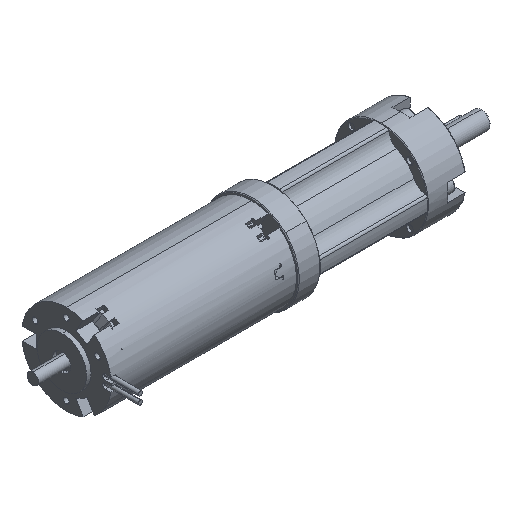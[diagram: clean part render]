
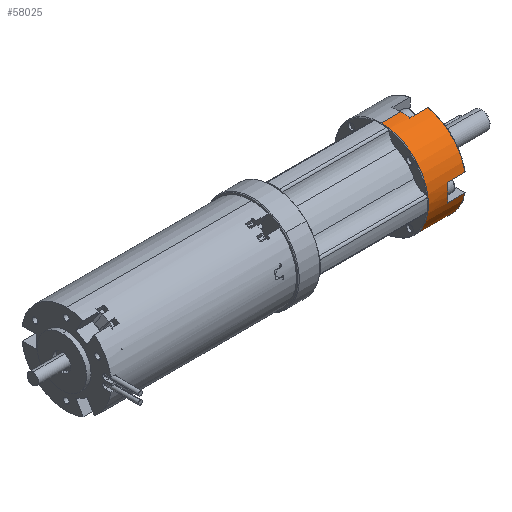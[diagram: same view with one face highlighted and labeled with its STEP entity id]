
A CAD part, isometric view. The second image highlights one B-rep face of the part: STEP entity #58025.
In plain terms, the highlighted cylindrical face has radius 21 mm (diameter 42 mm), a partial arc.
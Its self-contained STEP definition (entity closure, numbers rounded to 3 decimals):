
#43 = DIRECTION ( 'NONE',  ( 1., 0., 0. ) ) ;
#148 = EDGE_CURVE ( 'NONE', #23299, #51771, #22941, .T. ) ;
#1339 = EDGE_CURVE ( 'NONE', #60992, #38712, #49141, .T. ) ;
#1521 = CARTESIAN_POINT ( 'NONE',  ( 16.9, -4., 20.616 ) ) ;
#2095 = VECTOR ( 'NONE', #15614, 1000. ) ;
#3697 = DIRECTION ( 'NONE',  ( -1., 0., 0. ) ) ;
#4042 = CARTESIAN_POINT ( 'NONE',  ( 16.9, -20.616, -4. ) ) ;
#4118 = LINE ( 'NONE', #38940, #52838 ) ;
#4712 = AXIS2_PLACEMENT_3D ( 'NONE', #20359, #53383, #25099 ) ;
#5661 = EDGE_LOOP ( 'NONE', ( #40876, #60048, #26651, #35149, #33026, #30747, #54643, #25049, #15359, #45466, #37441, #35985 ) ) ;
#5839 = DIRECTION ( 'NONE',  ( 1., 0., 0. ) ) ;
#5995 = CARTESIAN_POINT ( 'NONE',  ( -3.37, -20.616, -4. ) ) ;
#6424 = LINE ( 'NONE', #52890, #41069 ) ;
#7701 = EDGE_CURVE ( 'NONE', #11667, #12142, #47411, .T. ) ;
#7794 = CARTESIAN_POINT ( 'NONE',  ( 9., 0., 0. ) ) ;
#7806 = DIRECTION ( 'NONE',  ( 1., 0., 0. ) ) ;
#7917 = DIRECTION ( 'NONE',  ( 1., 0., 0. ) ) ;
#9148 = DIRECTION ( 'NONE',  ( -1., 0., 0. ) ) ;
#9776 = VECTOR ( 'NONE', #7917, 1000. ) ;
#10589 = DIRECTION ( 'NONE',  ( 0., 0., -1. ) ) ;
#10762 = DIRECTION ( 'NONE',  ( -1., 0., 0. ) ) ;
#10824 = CARTESIAN_POINT ( 'NONE',  ( 16.9, -4., -20.616 ) ) ;
#11667 = VERTEX_POINT ( 'NONE', #39723 ) ;
#12142 = VERTEX_POINT ( 'NONE', #10824 ) ;
#12542 = DIRECTION ( 'NONE',  ( 0., 0., -1. ) ) ;
#13646 = CARTESIAN_POINT ( 'NONE',  ( 9., 0., -21. ) ) ;
#14704 = CARTESIAN_POINT ( 'NONE',  ( -3.37, 0., 0. ) ) ;
#15324 = CARTESIAN_POINT ( 'NONE',  ( 9., -20.616, -4. ) ) ;
#15359 = ORIENTED_EDGE ( 'NONE', *, *, #58092, .T. ) ;
#15535 = DIRECTION ( 'NONE',  ( 0., 0., -1. ) ) ;
#15614 = DIRECTION ( 'NONE',  ( -1., 0., 0. ) ) ;
#16657 = VERTEX_POINT ( 'NONE', #53145 ) ;
#17190 = CARTESIAN_POINT ( 'NONE',  ( -3.37, -4., -20.616 ) ) ;
#17995 = CARTESIAN_POINT ( 'NONE',  ( 16.9, 0., 0. ) ) ;
#18957 = CYLINDRICAL_SURFACE ( 'NONE', #35857, 21. ) ;
#19798 = CARTESIAN_POINT ( 'NONE',  ( 0.3, 0., 0. ) ) ;
#20162 = DIRECTION ( 'NONE',  ( 1., 0., 0. ) ) ;
#20359 = CARTESIAN_POINT ( 'NONE',  ( 9., 0., 0. ) ) ;
#20645 = VERTEX_POINT ( 'NONE', #29319 ) ;
#20682 = CARTESIAN_POINT ( 'NONE',  ( 9., -20.616, 4. ) ) ;
#20713 = VERTEX_POINT ( 'NONE', #20682 ) ;
#20803 = VECTOR ( 'NONE', #10762, 1000. ) ;
#21262 = EDGE_CURVE ( 'NONE', #57548, #20713, #54315, .T. ) ;
#22772 = DIRECTION ( 'NONE',  ( 0., 0., -1. ) ) ;
#22941 = CIRCLE ( 'NONE', #58885, 21. ) ;
#23299 = VERTEX_POINT ( 'NONE', #45488 ) ;
#23664 = VECTOR ( 'NONE', #7806, 1000. ) ;
#25049 = ORIENTED_EDGE ( 'NONE', *, *, #21262, .T. ) ;
#25099 = DIRECTION ( 'NONE',  ( 0., 0., -1. ) ) ;
#25248 = EDGE_CURVE ( 'NONE', #38712, #26696, #59884, .T. ) ;
#26651 = ORIENTED_EDGE ( 'NONE', *, *, #25248, .T. ) ;
#26696 = VERTEX_POINT ( 'NONE', #13646 ) ;
#28914 = DIRECTION ( 'NONE',  ( 1., 0., 0. ) ) ;
#29105 = CIRCLE ( 'NONE', #35176, 21. ) ;
#29319 = CARTESIAN_POINT ( 'NONE',  ( 9., 0., 21. ) ) ;
#30747 = ORIENTED_EDGE ( 'NONE', *, *, #46556, .T. ) ;
#31684 = CIRCLE ( 'NONE', #50743, 21. ) ;
#31941 = CARTESIAN_POINT ( 'NONE',  ( 9., 0., 0. ) ) ;
#32178 = EDGE_CURVE ( 'NONE', #50999, #57548, #58487, .T. ) ;
#33026 = ORIENTED_EDGE ( 'NONE', *, *, #7701, .T. ) ;
#34953 = EDGE_CURVE ( 'NONE', #60992, #20645, #4118, .T. ) ;
#35149 = ORIENTED_EDGE ( 'NONE', *, *, #56808, .T. ) ;
#35176 = AXIS2_PLACEMENT_3D ( 'NONE', #17995, #51039, #22772 ) ;
#35857 = AXIS2_PLACEMENT_3D ( 'NONE', #14704, #28914, #57283 ) ;
#35985 = ORIENTED_EDGE ( 'NONE', *, *, #46258, .T. ) ;
#36690 = DIRECTION ( 'NONE',  ( 0., 0., -1. ) ) ;
#37441 = ORIENTED_EDGE ( 'NONE', *, *, #50107, .T. ) ;
#38220 = LINE ( 'NONE', #43893, #2095 ) ;
#38712 = VERTEX_POINT ( 'NONE', #57292 ) ;
#38940 = CARTESIAN_POINT ( 'NONE',  ( -3.37, 0., 21. ) ) ;
#39723 = CARTESIAN_POINT ( 'NONE',  ( 9., -4., -20.616 ) ) ;
#40744 = DIRECTION ( 'NONE',  ( -1., 0., 0. ) ) ;
#40876 = ORIENTED_EDGE ( 'NONE', *, *, #34953, .F. ) ;
#41069 = VECTOR ( 'NONE', #5839, 1000. ) ;
#43893 = CARTESIAN_POINT ( 'NONE',  ( -3.37, -4., 20.616 ) ) ;
#45466 = ORIENTED_EDGE ( 'NONE', *, *, #148, .T. ) ;
#45488 = CARTESIAN_POINT ( 'NONE',  ( 16.9, -20.616, 4. ) ) ;
#46258 = EDGE_CURVE ( 'NONE', #16657, #20645, #49851, .T. ) ;
#46556 = EDGE_CURVE ( 'NONE', #12142, #50999, #29105, .T. ) ;
#46605 = AXIS2_PLACEMENT_3D ( 'NONE', #19798, #43, #15535 ) ;
#47411 = LINE ( 'NONE', #17190, #9776 ) ;
#49141 = CIRCLE ( 'NONE', #46605, 21. ) ;
#49851 = CIRCLE ( 'NONE', #4712, 21. ) ;
#50107 = EDGE_CURVE ( 'NONE', #51771, #16657, #38220, .T. ) ;
#50743 = AXIS2_PLACEMENT_3D ( 'NONE', #31941, #3697, #36690 ) ;
#50999 = VERTEX_POINT ( 'NONE', #4042 ) ;
#51039 = DIRECTION ( 'NONE',  ( -1., 0., 0. ) ) ;
#51216 = CARTESIAN_POINT ( 'NONE',  ( 16.9, 0., 0. ) ) ;
#51771 = VERTEX_POINT ( 'NONE', #1521 ) ;
#52838 = VECTOR ( 'NONE', #20162, 1000. ) ;
#52890 = CARTESIAN_POINT ( 'NONE',  ( -3.37, -20.616, 4. ) ) ;
#53145 = CARTESIAN_POINT ( 'NONE',  ( 9., -4., 20.616 ) ) ;
#53383 = DIRECTION ( 'NONE',  ( -1., 0., 0. ) ) ;
#54315 = CIRCLE ( 'NONE', #54430, 21. ) ;
#54430 = AXIS2_PLACEMENT_3D ( 'NONE', #7794, #40744, #12542 ) ;
#54643 = ORIENTED_EDGE ( 'NONE', *, *, #32178, .T. ) ;
#56702 = FACE_OUTER_BOUND ( 'NONE', #5661, .T. ) ;
#56808 = EDGE_CURVE ( 'NONE', #26696, #11667, #31684, .T. ) ;
#57283 = DIRECTION ( 'NONE',  ( 0., 0., -1. ) ) ;
#57292 = CARTESIAN_POINT ( 'NONE',  ( 0.3, 0., -21. ) ) ;
#57548 = VERTEX_POINT ( 'NONE', #15324 ) ;
#58025 = ADVANCED_FACE ( 'NONE', ( #56702 ), #18957, .T. ) ;
#58092 = EDGE_CURVE ( 'NONE', #20713, #23299, #6424, .T. ) ;
#58333 = CARTESIAN_POINT ( 'NONE',  ( 0.3, 0., 21. ) ) ;
#58487 = LINE ( 'NONE', #5995, #20803 ) ;
#58885 = AXIS2_PLACEMENT_3D ( 'NONE', #51216, #9148, #10589 ) ;
#59828 = CARTESIAN_POINT ( 'NONE',  ( -3.37, 0., -21. ) ) ;
#59884 = LINE ( 'NONE', #59828, #23664 ) ;
#60048 = ORIENTED_EDGE ( 'NONE', *, *, #1339, .T. ) ;
#60992 = VERTEX_POINT ( 'NONE', #58333 ) ;
